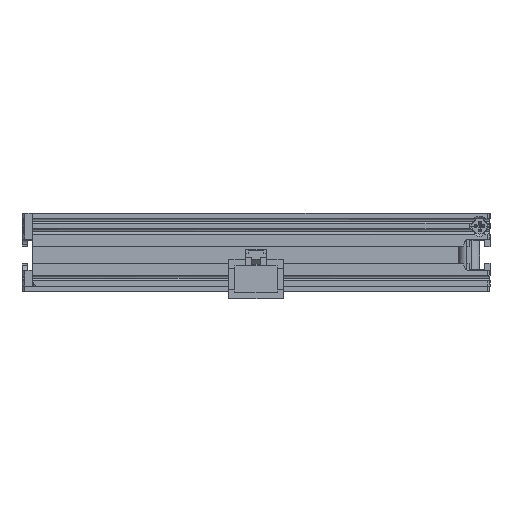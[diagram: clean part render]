
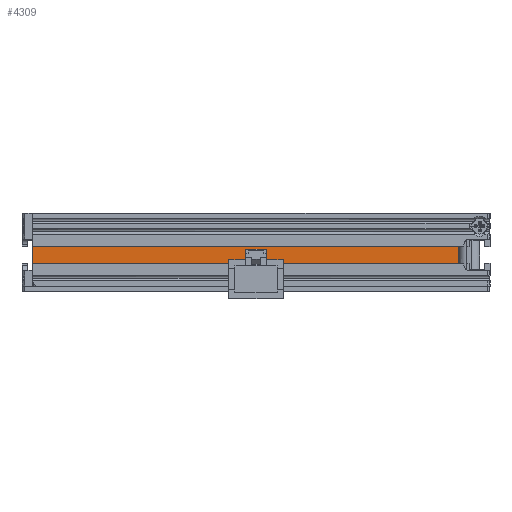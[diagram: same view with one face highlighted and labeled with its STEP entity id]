
A CAD part, top view. The second image highlights one B-rep face of the part: STEP entity #4309.
In plain terms, the highlighted planar face has unit normal (0, 0, 1).
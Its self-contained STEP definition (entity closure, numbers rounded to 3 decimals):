
#2292 = LINE ( 'NONE', #36817, #4497 ) ;
#2429 = VERTEX_POINT ( 'NONE', #37112 ) ;
#2948 = VERTEX_POINT ( 'NONE', #18479 ) ;
#4309 = ADVANCED_FACE ( 'NONE', ( #28133 ), #36934, .F. ) ;
#4497 = VECTOR ( 'NONE', #36693, 1000. ) ;
#7031 = VECTOR ( 'NONE', #19319, 1000. ) ;
#7902 = CARTESIAN_POINT ( 'NONE',  ( -45., 5.35, 31. ) ) ;
#8272 = DIRECTION ( 'NONE',  ( 0., 0., -1. ) ) ;
#11122 = EDGE_CURVE ( 'NONE', #32904, #28075, #25557, .T. ) ;
#12695 = EDGE_LOOP ( 'NONE', ( #29278, #26797, #15274, #13429 ) ) ;
#13429 = ORIENTED_EDGE ( 'NONE', *, *, #29183, .F. ) ;
#13463 = DIRECTION ( 'NONE',  ( 1., 0., 0. ) ) ;
#15025 = LINE ( 'NONE', #22213, #21386 ) ;
#15274 = ORIENTED_EDGE ( 'NONE', *, *, #18054, .F. ) ;
#16382 = CARTESIAN_POINT ( 'NONE',  ( 39., 5.35, 31. ) ) ;
#18054 = EDGE_CURVE ( 'NONE', #2948, #28075, #2292, .T. ) ;
#18479 = CARTESIAN_POINT ( 'NONE',  ( -43., 8.65, 31. ) ) ;
#19319 = DIRECTION ( 'NONE',  ( 0., 1., 0. ) ) ;
#21034 = CARTESIAN_POINT ( 'NONE',  ( 39., 5.35, 31. ) ) ;
#21386 = VECTOR ( 'NONE', #13463, 1000. ) ;
#22125 = CARTESIAN_POINT ( 'NONE',  ( -43., 1., 31. ) ) ;
#22213 = CARTESIAN_POINT ( 'NONE',  ( -45., 5.35, 31. ) ) ;
#22313 = CARTESIAN_POINT ( 'NONE',  ( 39., 8.65, 31. ) ) ;
#23472 = DIRECTION ( 'NONE',  ( 0., 1., 0. ) ) ;
#25157 = LINE ( 'NONE', #22125, #7031 ) ;
#25557 = LINE ( 'NONE', #21034, #35911 ) ;
#26797 = ORIENTED_EDGE ( 'NONE', *, *, #11122, .T. ) ;
#27889 = AXIS2_PLACEMENT_3D ( 'NONE', #7902, #8272, #30988 ) ;
#28075 = VERTEX_POINT ( 'NONE', #22313 ) ;
#28133 = FACE_OUTER_BOUND ( 'NONE', #12695, .T. ) ;
#29183 = EDGE_CURVE ( 'NONE', #2429, #2948, #25157, .T. ) ;
#29278 = ORIENTED_EDGE ( 'NONE', *, *, #31245, .T. ) ;
#30988 = DIRECTION ( 'NONE',  ( -1., 0., 0. ) ) ;
#31245 = EDGE_CURVE ( 'NONE', #2429, #32904, #15025, .T. ) ;
#32904 = VERTEX_POINT ( 'NONE', #16382 ) ;
#35911 = VECTOR ( 'NONE', #23472, 1000. ) ;
#36693 = DIRECTION ( 'NONE',  ( 1., 0., 0. ) ) ;
#36817 = CARTESIAN_POINT ( 'NONE',  ( -45., 8.65, 31. ) ) ;
#36934 = PLANE ( 'NONE',  #27889 ) ;
#37112 = CARTESIAN_POINT ( 'NONE',  ( -43., 5.35, 31. ) ) ;
